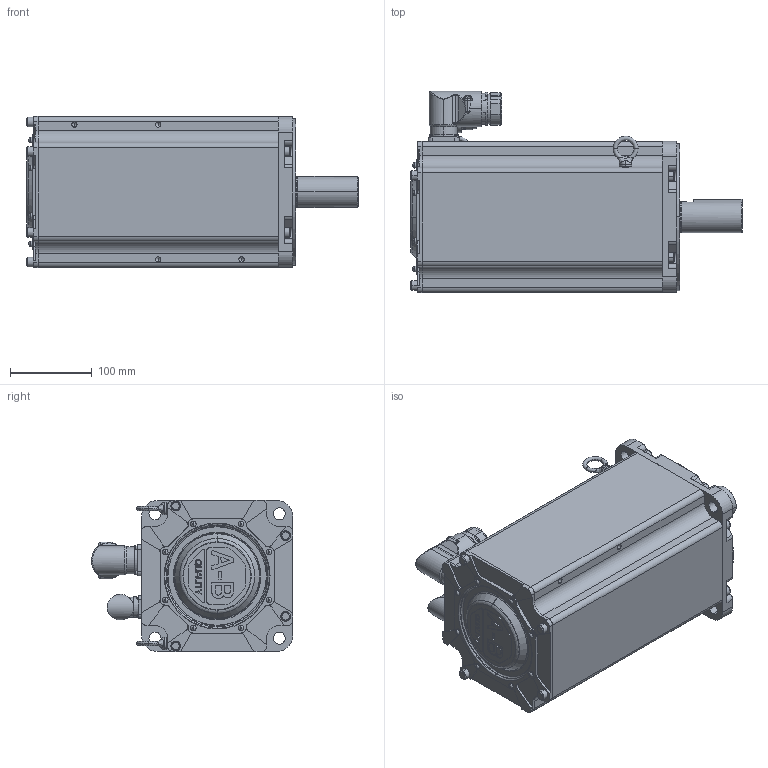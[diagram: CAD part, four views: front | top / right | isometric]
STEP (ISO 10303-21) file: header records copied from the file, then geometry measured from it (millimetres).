
FILE_DESCRIPTION (( 'STEP AP214' ), '1' );
FILE_NAME ('Rockwell Automation-MPM-B2153E-xx72xx.STEP', '2012-11-08T05:09:35', ( 'Windows User' ), ( '' ), 'SwSTEP 2.0', 'SolidWorks 2013', '' );
FILE_SCHEMA (( 'AUTOMOTIVE_DESIGN' ));
Length unit declared in the file: inch
Products named in the file (6): Rockwell Automation-MPM-B2153E-xx72xx_MPM-xxx-Eyebolt; Rockwell Automation-MPM-B2153E-xx72xx_MPM-xxxx-Power Connector-M40; Rockwell Automation-MPM-B2153E-xx72xx_MPM-xxxx-Encoder Connector; Rockwell Automation-MPM-B2153E-xx72xx_MPM-215x-Shaft_2153-shaft-key; Rockwell Automation-MPM-B2153E-xx72xx_MPM-215x-Body_2153; Rockwell Automation-MPM-B2153E-xx72xx
Assembly tree (6 placements, depth 2):
  Rockwell Automation-MPM-B2153E-xx72xx
    Rockwell Automation-MPM-B2153E-xx72xx_MPM-215x-Body_2153
    Rockwell Automation-MPM-B2153E-xx72xx_MPM-215x-Shaft_2153-shaft-key
    Rockwell Automation-MPM-B2153E-xx72xx_MPM-xxxx-Encoder Connector
    Rockwell Automation-MPM-B2153E-xx72xx_MPM-xxxx-Power Connector-M40
    Rockwell Automation-MPM-B2153E-xx72xx_MPM-xxx-Eyebolt  x2
Bounding box: 406.34 x 246.39 x 184.91 mm (x, y, z)
Volume: 6121888.3 mm3; surface area: 748380.4 mm2
Topology: 9 solids, 9 shells, 1058 faces, 2610 edges, 1661 vertices
Faces by surface type: plane 444, cylinder 371, torus 108, cone 84, bspline 51
Entity records: 36418 total; most frequent: CARTESIAN_POINT 9555, DIRECTION 5412, ORIENTED_EDGE 5098, EDGE_CURVE 2549, AXIS2_PLACEMENT_3D 2023, VERTEX_POINT 1635, VECTOR 1366, LINE 1366
